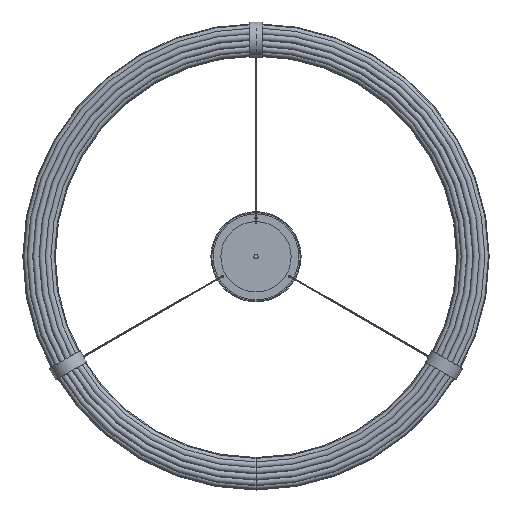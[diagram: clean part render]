
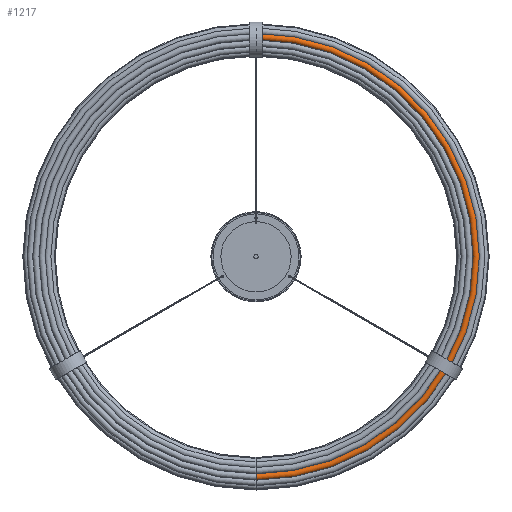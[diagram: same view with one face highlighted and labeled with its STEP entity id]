
A CAD part, front view. The second image highlights one B-rep face of the part: STEP entity #1217.
In plain terms, the highlighted toroidal (fillet/blend) face has major radius 507.194 mm and minor radius 7.352 mm.
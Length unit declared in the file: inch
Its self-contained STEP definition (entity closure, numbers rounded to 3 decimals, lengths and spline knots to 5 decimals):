
#382 = ORIENTED_EDGE ( 'NONE', *, *, #2230, .F. ) ;
#480 = EDGE_CURVE ( 'NONE', #6723, #816, #721, .T. ) ;
#706 = EDGE_CURVE ( 'NONE', #6723, #3064, #1519, .T. ) ;
#721 = CIRCLE ( 'NONE', #3155, 19.6788 ) ;
#816 = VERTEX_POINT ( 'NONE', #4652 ) ;
#888 = CARTESIAN_POINT ( 'NONE',  ( 0., -1.15343, 19.96826 ) ) ;
#1113 = DIRECTION ( 'NONE',  ( 0., 1., 0. ) ) ;
#1217 = ADVANCED_FACE ( 'NONE', ( #2301 ), #5096, .T. ) ;
#1375 = DIRECTION ( 'NONE',  ( 0., 0., 1. ) ) ;
#1382 = CARTESIAN_POINT ( 'NONE',  ( 0., -1.15343, -20.25772 ) ) ;
#1519 = CIRCLE ( 'NONE', #5375, 0.28946 ) ;
#1952 = CARTESIAN_POINT ( 'NONE',  ( 0., -1.15343, 19.6788 ) ) ;
#2230 = EDGE_CURVE ( 'NONE', #3064, #3415, #2427, .T. ) ;
#2301 = FACE_OUTER_BOUND ( 'NONE', #3505, .T. ) ;
#2406 = DIRECTION ( 'NONE',  ( -1., 0., 0. ) ) ;
#2427 = CIRCLE ( 'NONE', #4963, 20.25772 ) ;
#2899 = AXIS2_PLACEMENT_3D ( 'NONE', #3369, #6032, #3438 ) ;
#2972 = CARTESIAN_POINT ( 'NONE',  ( 0., -1.15343, 0. ) ) ;
#3064 = VERTEX_POINT ( 'NONE', #5710 ) ;
#3076 = ORIENTED_EDGE ( 'NONE', *, *, #6416, .T. ) ;
#3155 = AXIS2_PLACEMENT_3D ( 'NONE', #5850, #1113, #5816 ) ;
#3213 = AXIS2_PLACEMENT_3D ( 'NONE', #2972, #5069, #1375 ) ;
#3219 = CARTESIAN_POINT ( 'NONE',  ( 0., -1.15343, 0. ) ) ;
#3369 = CARTESIAN_POINT ( 'NONE',  ( 0., -1.15343, -19.96826 ) ) ;
#3415 = VERTEX_POINT ( 'NONE', #1382 ) ;
#3438 = DIRECTION ( 'NONE',  ( 0., 0., -1. ) ) ;
#3505 = EDGE_LOOP ( 'NONE', ( #382, #5594, #4108, #3076 ) ) ;
#3986 = DIRECTION ( 'NONE',  ( 0., 0., 1. ) ) ;
#4108 = ORIENTED_EDGE ( 'NONE', *, *, #480, .T. ) ;
#4652 = CARTESIAN_POINT ( 'NONE',  ( 0., -1.15343, -19.6788 ) ) ;
#4963 = AXIS2_PLACEMENT_3D ( 'NONE', #3219, #5882, #5358 ) ;
#5069 = DIRECTION ( 'NONE',  ( 0., 1., 0. ) ) ;
#5096 = TOROIDAL_SURFACE ( 'NONE', #3213, 19.96826, 0.28946 ) ;
#5358 = DIRECTION ( 'NONE',  ( 0., 0., 1. ) ) ;
#5375 = AXIS2_PLACEMENT_3D ( 'NONE', #888, #2406, #3986 ) ;
#5594 = ORIENTED_EDGE ( 'NONE', *, *, #706, .F. ) ;
#5710 = CARTESIAN_POINT ( 'NONE',  ( 0., -1.15343, 20.25772 ) ) ;
#5816 = DIRECTION ( 'NONE',  ( 0., 0., 1. ) ) ;
#5850 = CARTESIAN_POINT ( 'NONE',  ( 0., -1.15343, 0. ) ) ;
#5882 = DIRECTION ( 'NONE',  ( 0., 1., 0. ) ) ;
#6032 = DIRECTION ( 'NONE',  ( 1., 0., 0. ) ) ;
#6218 = CIRCLE ( 'NONE', #2899, 0.28946 ) ;
#6416 = EDGE_CURVE ( 'NONE', #816, #3415, #6218, .T. ) ;
#6723 = VERTEX_POINT ( 'NONE', #1952 ) ;
